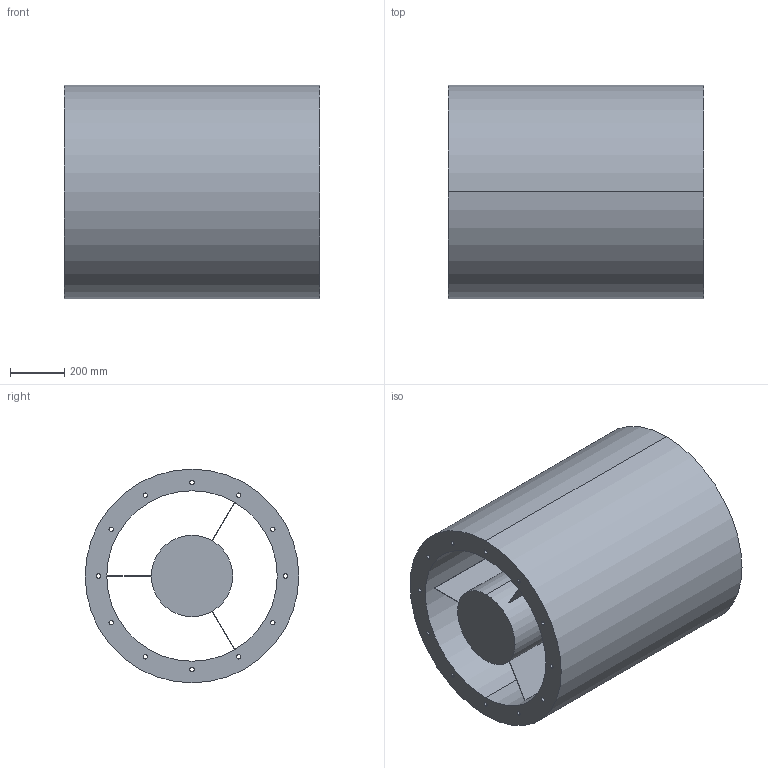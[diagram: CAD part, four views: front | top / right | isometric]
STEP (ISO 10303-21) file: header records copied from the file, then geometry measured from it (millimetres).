
FILE_DESCRIPTION(('STEP AP214'),'1');
FILE_NAME('accessory_5211814600.stp','2017-10-09T11:36:59',('TraceParts'),('TraceParts S.A.'),'Spatial InterOp 3D',' ',' ');
FILE_SCHEMA(('automotive_design'));
Length unit declared in the file: millimetre
Products named in the file (1): accessory_5211814600
Bounding box: 945 x 790 x 790 mm (x, y, z)
Volume: 226810242.8 mm3; surface area: 6739578.9 mm2
Topology: 1 solids, 1 shells, 48 faces, 131 edges, 87 vertices
Faces by surface type: cylinder 30, plane 16, torus 2
Entity records: 2024 total; most frequent: DIRECTION 306, CARTESIAN_POINT 267, ORIENTED_EDGE 262, EDGE_CURVE 131, AXIS2_PLACEMENT_3D 126, VERTEX_POINT 87, EDGE_LOOP 80, CIRCLE 77
